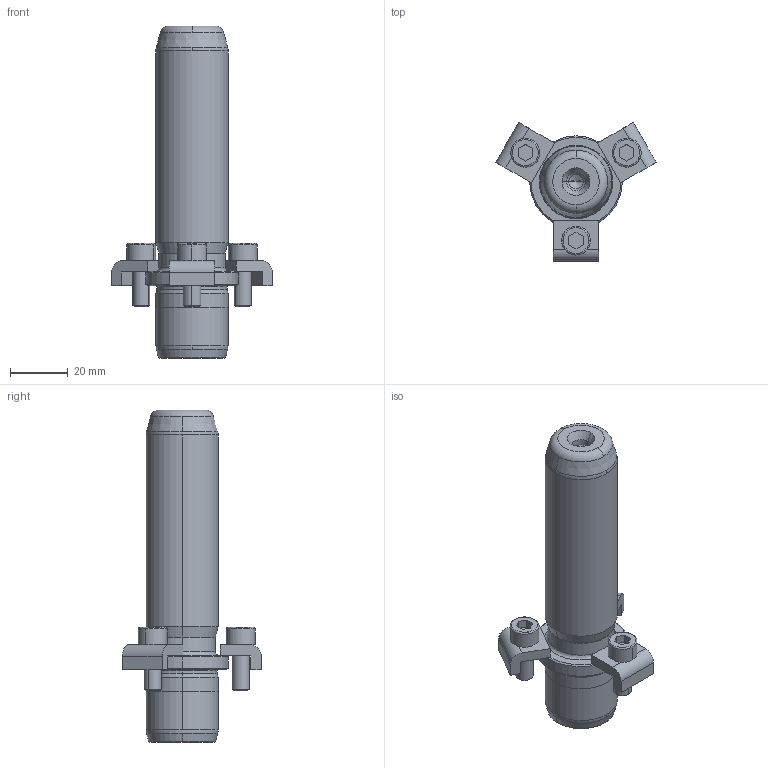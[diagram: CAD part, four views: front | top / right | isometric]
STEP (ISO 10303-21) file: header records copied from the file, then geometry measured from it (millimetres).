
FILE_DESCRIPTION((''),'2;1');
FILE_NAME('P21_025_090.stp','2008-12-23T09:41:21',(''),(''),'Mechanical Desktop 2009','Mechanical Desktop 2009',', , ');
FILE_SCHEMA(('CONFIG_CONTROL_DESIGN'));
Length unit declared in the file: millimetre
Products named in the file (2): Product; blmdl1
Assembly tree (1 placements, depth 2):
  Product
    blmdl1
Bounding box: 55.58 x 48.13 x 115 mm (x, y, z)
Volume: 60848 mm3; surface area: 15664.5 mm2
Topology: 7 solids, 7 shells, 163 faces, 417 edges, 269 vertices
Faces by surface type: plane 59, cylinder 44, cone 32, torus 14, bspline 14
Entity records: 5679 total; most frequent: CARTESIAN_POINT 1511, DIRECTION 914, ORIENTED_EDGE 826, EDGE_CURVE 413, AXIS2_PLACEMENT_3D 362, VERTEX_POINT 269, CIRCLE 211, VECTOR 190
